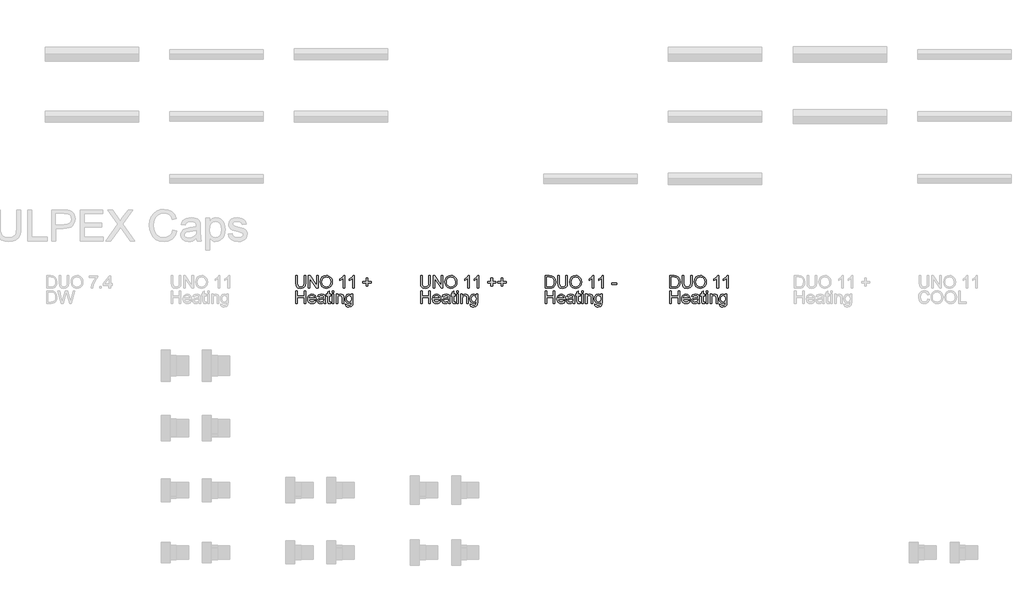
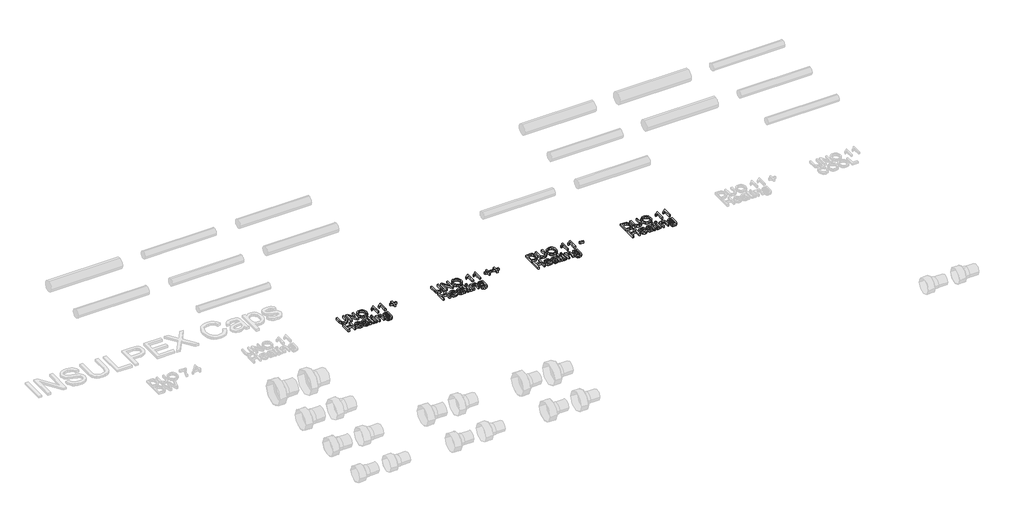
# One storey, part 24 of 44: 4 proxies.
"""IFC4 building model written with IfcOpenShell, lengths in millimetres."""

from ifc_helpers import new_model, si_unit, origin, origin_with_axes, place, context, project, spatial, polyline, outline, extrude, element, save

model = new_model("IFC4")

# Units and contexts
model_context = context("Model", 3, world=origin())
ifc_project = project(units=[si_unit("LENGTHUNIT", "METRE", prefix="MILLI")], contexts=[model_context])

# Site, building, storey
site = spatial("IfcSite", under=ifc_project)
building = spatial("IfcBuilding", under=site)
storey = spatial("IfcBuildingStorey", under=building, Name="REHAU Starting view", Elevation=0.0)

# Proxies
placement = place(None, origin())
element("IfcBuildingElementProxy", 1, Name="100", ObjectType="100", at=placement, inside=storey, context=model_context, shape_type="SweptSolid", body=[
    extrude(outline(polyline([(19076.9118625, 13222.431128), (19089.4689012, 13222.431128), (19089.4689012, 13164.477451), (19086.0598614, 13140.4547567), (19073.7726028, 13125.9847316), (19063.5086951, 13121.8000739), (19050.4734097, 13120.405188), (19027.529836, 13125.2612303), (19019.8901532, 13131.2055902), (19014.8011189, 13139.3265853), (19010.9874089, 13164.477451), (19010.9874089, 13222.431128), (19023.5444477, 13222.431128), (19023.5444477, 13164.9189094), (19026.0215198, 13145.7767829), (19034.5318566, 13136.2976902), (19049.2961874, 13132.9622268), (19062.067824, 13134.6115644), (19070.5597667, 13139.5595772), (19075.3238385, 13149.1980855), (19076.9118625, 13164.9189094), (19076.9118625, 13222.431128)])), origin_with_axes(), (0.0, 0.0, 1.0), 20.0),
    extrude(outline(polyline([(19111.4437191, 13121.9748178), (19111.4437191, 13222.431128), (19124.8836746, 13222.431128), (19177.3681726, 13142.8459897), (19177.3681726, 13222.431128), (19189.9252114, 13222.431128), (19189.9252114, 13121.9748178), (19176.4852558, 13121.9748178), (19124.0007578, 13201.5844816), (19124.0007578, 13121.9748178), (19111.4437191, 13121.9748178)])), origin_with_axes(), (0.0, 0.0, 1.0), 20.0),
    extrude(outline(polyline([(19207.1911397, 13170.8785977), (19210.5388658, 13193.0925389), (19220.5820443, 13209.8986147), (19235.9165921, 13220.4752221), (19255.1384264, 13224.0007578), (19268.3147332, 13222.3452889), (19280.1298766, 13217.3788819), (19289.9400631, 13209.4510249), (19297.1014993, 13198.9112058), (19301.479295, 13186.2683279), (19302.9385603, 13172.0312947), (19301.402653, 13157.6041891), (19296.794931, 13144.7835015), (19289.369846, 13134.2252883), (19279.3818499, 13126.5856055), (19267.667874, 13121.9502924), (19255.06485, 13120.405188), (19241.6862081, 13122.1127736), (19229.8036197, 13127.2355304), (19220.0179586, 13135.3105402), (19212.9300988, 13145.8748848), (19207.1911397, 13170.8785977)]), holes=[polyline([(19219.7481785, 13170.7559704), (19222.2589731, 13155.0412778), (19229.7913569, 13143.0667189), (19241.1129253, 13135.4883498), (19254.9912736, 13132.9622268), (19269.071957, 13135.5128753), (19280.4119195, 13143.1648208), (19287.889121, 13155.5072617), (19290.3815215, 13172.1293965), (19286.1140904, 13192.8534156), (19273.6428907, 13206.575414), (19255.2120028, 13211.4437191), (19241.7046022, 13209.0984714), (19230.2205526, 13202.0627282), (19222.366272, 13189.5455433), (19219.7481785, 13170.7559704)])]), origin_with_axes(), (0.0, 0.0, 1.0), 20.0),
    extrude(outline(polyline([(19401.8252406, 13121.9748178), (19389.2682018, 13121.9748178), (19389.2682018, 13200.2601064), (19377.3733507, 13191.7865578), (19364.1541243, 13185.4467247), (19364.1541243, 13197.3170505), (19382.5604868, 13209.0647488), (19393.7318367, 13222.431128), (19401.8252406, 13222.431128), (19401.8252406, 13121.9748178)])), origin_with_axes(), (0.0, 0.0, 1.0), 20.0),
    extrude(outline(polyline([(19478.7371031, 13121.9748178), (19466.1800643, 13121.9748178), (19466.1800643, 13200.2601064), (19454.2852131, 13191.7865578), (19441.0659868, 13185.4467247), (19441.0659868, 13197.3170505), (19459.4723492, 13209.0647488), (19470.6436992, 13222.431128), (19478.7371031, 13222.431128), (19478.7371031, 13121.9748178)])), origin_with_axes(), (0.0, 0.0, 1.0), 20.0),
    extrude(outline(polyline([(19576.0541535, 13137.6711163), (19576.0541535, 13164.3548237), (19549.3704461, 13164.3548237), (19549.3704461, 13176.9118625), (19576.0541535, 13176.9118625), (19576.0541535, 13203.5955698), (19588.6111923, 13203.5955698), (19588.6111923, 13176.9118625), (19615.2948997, 13176.9118625), (19615.2948997, 13164.3548237), (19588.6111923, 13164.3548237), (19588.6111923, 13137.6711163), (19576.0541535, 13137.6711163)])), origin_with_axes(), (0.0, 0.0, 1.0), 20.0),
    extrude(outline(polyline([(19010.9874089, 13000.0), (19010.9874089, 13100.4563101), (19023.5444477, 13100.4563101), (19023.5444477, 13059.6459342), (19076.9118625, 13059.6459342), (19076.9118625, 13100.4563101), (19089.4689012, 13100.4563101), (19089.4689012, 13000.0), (19076.9118625, 13000.0), (19076.9118625, 13047.0888954), (19023.5444477, 13047.0888954), (19023.5444477, 13000.0), (19010.9874089, 13000.0)])), origin_with_axes(), (0.0, 0.0, 1.0), 20.0),
    extrude(outline(polyline([(19161.5247213, 13021.9748178), (19173.8365055, 13020.405188), (19169.4004617, 13011.1284304), (19162.321799, 13004.1938547), (19152.7599328, 12999.8712413), (19140.8742787, 12998.4303702), (19126.1406048, 13000.9166393), (19114.803708, 13008.3754468), (19107.5748268, 13020.3224146), (19105.1651997, 13036.2731647), (19107.5993522, 13052.7604095), (19114.9018098, 13065.0905877), (19126.0854225, 13072.7793214), (19140.1630402, 13075.3422326), (19153.8022651, 13072.7854527), (19164.7007692, 13065.1151131), (19171.846877, 13052.8094604), (19174.2289129, 13036.3467411), (19174.1553365, 13032.9622268), (19117.7222385, 13032.9622268), (19119.8958079, 13023.5628418), (19124.9449883, 13016.6527916), (19132.2321175, 13012.4037546), (19141.1195333, 13010.9874089), (19153.4313175, 13013.6116338), (19161.5247213, 13021.9748178)]), holes=[polyline([(19117.7222385, 13045.5192655), (19161.6718741, 13045.5192655), (19156.6441535, 13056.8990819), (19149.3233018, 13061.3136659), (19140.1139892, 13062.7851938), (19124.6506827, 13058.088567), (19119.7854433, 13052.5979283), (19117.7222385, 13045.5192655)])]), origin_with_axes(), (0.0, 0.0, 1.0), 20.0),
    extrude(outline(polyline([(19233.8748471, 13009.4177791), (19221.697953, 13000.9074423), (19208.2457347, 12998.4303702), (19197.7519008, 12999.9202922), (19190.0110505, 13004.3900585), (19185.2377816, 13011.1774813), (19183.646692, 13019.6203731), (19186.0501877, 13029.5531869), (19192.3654953, 13036.7636741), (19201.157875, 13040.8839524), (19212.0226566, 13042.7724133), (19233.8012707, 13047.0888954), (19233.8748471, 13049.8847985), (19230.4167563, 13059.1554248), (19216.5353424, 13062.7851938), (19203.8311508, 13060.3694354), (19197.7733606, 13051.7977849), (19185.2163218, 13053.3674148), (19190.6487126, 13065.6301479), (19201.5870706, 13072.8161096), (19218.1540231, 13075.3422326), (19233.372075, 13073.1104152), (19241.968251, 13067.5063461), (19245.8187492, 13058.9837466), (19246.4318858, 13047.9963376), (19246.4318858, 13032.3736156), (19247.069548, 13010.5582133), (19249.5711455, 13000.0), (19237.0141068, 13000.0), (19233.8748471, 13009.4177791)]), holes=[polyline([(19233.8748471, 13034.5318566), (19213.6168119, 13030.6813584), (19202.8133439, 13028.6457447), (19197.9205134, 13025.3348067), (19196.2037308, 13020.5032899), (19199.9438644, 13013.7097357), (19210.9190106, 13010.9874089), (19223.6232021, 13013.9917785), (19231.8147079, 13021.2635793), (19233.8012707, 13030.975664), (19233.8748471, 13034.5318566)])]), origin_with_axes(), (0.0, 0.0, 1.0), 20.0),
    extrude(outline(polyline([(19290.3815215, 13010.4723741), (19291.9511514, 12999.632118), (19282.5578978, 12998.4303702), (19272.0364727, 13000.5150348), (19266.7880229, 13005.9842138), (19265.267444, 13020.2335097), (19265.267444, 13061.215564), (19255.8496649, 13061.215564), (19255.8496649, 13073.7726028), (19265.267444, 13073.7726028), (19265.267444, 13091.7007187), (19277.8244828, 13099.082884), (19277.8244828, 13073.7726028), (19290.3815215, 13073.7726028), (19290.3815215, 13061.215564), (19277.8244828, 13061.215564), (19277.8244828, 13020.6013917), (19278.4866703, 13014.1266686), (19280.6326487, 13011.8335375), (19284.9123425, 13010.9874089), (19290.3815215, 13010.4723741)])), origin_with_axes(), (0.0, 0.0, 1.0), 20.0),
    extrude(outline(polyline([(19302.9385603, 13087.8992714), (19302.9385603, 13100.4563101), (19315.4955991, 13100.4563101), (19315.4955991, 13087.8992714), (19302.9385603, 13087.8992714)])), origin_with_axes(), (0.0, 0.0, 1.0), 20.0),
    extrude(outline(polyline([(19302.9385603, 13000.0), (19302.9385603, 13073.7726028), (19315.4955991, 13073.7726028), (19315.4955991, 13000.0), (19302.9385603, 13000.0)])), origin_with_axes(), (0.0, 0.0, 1.0), 20.0),
    extrude(outline(polyline([(19334.3311572, 13000.0), (19334.3311572, 13073.7726028), (19346.888196, 13073.7726028), (19346.888196, 13063.4719069), (19356.4899161, 13072.3746512), (19369.5987778, 13075.3422326), (19381.4568408, 13072.9509996), (19389.5502447, 13066.6724803), (19393.3149038, 13057.4386422), (19393.9770914, 13045.2985363), (19393.9770914, 13000.0), (19381.4200526, 13000.0), (19381.4200526, 13043.6062792), (19379.9730501, 13054.7163154), (19374.8594904, 13060.5901646), (19366.2387889, 13062.7851938), (19352.6148924, 13057.8555751), (19348.3198701, 13050.712533), (19346.888196, 13039.1426443), (19346.888196, 13000.0), (19334.3311572, 13000.0)])), origin_with_axes(), (0.0, 0.0, 1.0), 20.0),
    extrude(outline(polyline([(19408.10376, 12993.7214806), (19420.6607988, 12992.1518508), (19424.7320262, 12985.5299749), (19436.9211829, 12982.7340717), (19449.7725273, 12985.8978569), (19455.9038939, 12994.7760757), (19456.7622852, 13009.4177791), (19447.9208546, 13002.3544448), (19437.1419121, 13000.0), (19424.1955316, 13002.7407209), (19414.5416949, 13010.9628835), (19408.5360213, 13023.0171502), (19406.5341301, 13037.2541834), (19410.127111, 13056.7151409), (19420.5259087, 13070.4861903), (19436.5287755, 13075.3422326), (19447.7307822, 13072.5953804), (19456.7622852, 13064.3548237), (19456.7622852, 13073.7726028), (19469.319324, 13073.7726028), (19469.319324, 13010.0799667), (19465.8857587, 12985.6893904), (19455.0087144, 12974.3463622), (19436.6759283, 12970.1770329), (19424.9926092, 12971.6454952), (19415.7924937, 12976.0508821), (19409.8910533, 12983.4054563), (19408.10376, 12993.7214806)]), holes=[polyline([(19419.0911689, 13038.1125747), (19420.4308725, 13026.5948026), (19424.4499833, 13018.6761426), (19430.4924451, 13014.0868147), (19437.9022016, 13012.5570388), (19445.2567758, 13014.0776177), (19451.3298944, 13018.6393544), (19455.4041875, 13026.4568468), (19456.7622852, 13037.7446927), (19455.3643336, 13048.6309341), (19451.1704789, 13056.4698863), (19445.0084555, 13061.2063669), (19437.7059979, 13062.7851938), (19430.5353646, 13061.2308924), (19424.5235597, 13056.5679881), (19420.4492666, 13048.8455319), (19419.0911689, 13038.1125747)])]), origin_with_axes(), (0.0, 0.0, 1.0), 20.0),
])
element("IfcBuildingElementProxy", 2, Name="100", ObjectType="100", at=placement, inside=storey, context=model_context, shape_type="SweptSolid", body=[
    extrude(outline(polyline([(20076.9118625, 13222.431128), (20089.4689012, 13222.431128), (20089.4689012, 13164.477451), (20086.0598614, 13140.4547567), (20073.7726028, 13125.9847316), (20063.5086951, 13121.8000739), (20050.4734097, 13120.405188), (20027.529836, 13125.2612303), (20019.8901532, 13131.2055902), (20014.8011189, 13139.3265853), (20010.9874089, 13164.477451), (20010.9874089, 13222.431128), (20023.5444477, 13222.431128), (20023.5444477, 13164.9189094), (20026.0215198, 13145.7767829), (20034.5318566, 13136.2976902), (20049.2961874, 13132.9622268), (20062.067824, 13134.6115644), (20070.5597667, 13139.5595772), (20075.3238385, 13149.1980855), (20076.9118625, 13164.9189094), (20076.9118625, 13222.431128)])), origin_with_axes(), (0.0, 0.0, 1.0), 20.0),
    extrude(outline(polyline([(20111.4437191, 13121.9748178), (20111.4437191, 13222.431128), (20124.8836746, 13222.431128), (20177.3681726, 13142.8459897), (20177.3681726, 13222.431128), (20189.9252114, 13222.431128), (20189.9252114, 13121.9748178), (20176.4852558, 13121.9748178), (20124.0007578, 13201.5844816), (20124.0007578, 13121.9748178), (20111.4437191, 13121.9748178)])), origin_with_axes(), (0.0, 0.0, 1.0), 20.0),
    extrude(outline(polyline([(20207.1911397, 13170.8785977), (20210.5388658, 13193.0925389), (20220.5820443, 13209.8986147), (20235.9165921, 13220.4752221), (20255.1384264, 13224.0007578), (20268.3147332, 13222.3452889), (20280.1298766, 13217.3788819), (20289.9400631, 13209.4510249), (20297.1014993, 13198.9112058), (20301.479295, 13186.2683279), (20302.9385603, 13172.0312947), (20301.402653, 13157.6041891), (20296.794931, 13144.7835015), (20289.369846, 13134.2252883), (20279.3818499, 13126.5856055), (20267.667874, 13121.9502924), (20255.06485, 13120.405188), (20241.6862081, 13122.1127736), (20229.8036197, 13127.2355304), (20220.0179586, 13135.3105402), (20212.9300988, 13145.8748848), (20207.1911397, 13170.8785977)]), holes=[polyline([(20219.7481785, 13170.7559704), (20222.2589731, 13155.0412778), (20229.7913569, 13143.0667189), (20241.1129253, 13135.4883498), (20254.9912736, 13132.9622268), (20269.071957, 13135.5128753), (20280.4119195, 13143.1648208), (20287.889121, 13155.5072617), (20290.3815215, 13172.1293965), (20286.1140904, 13192.8534156), (20273.6428907, 13206.575414), (20255.2120028, 13211.4437191), (20241.7046022, 13209.0984714), (20230.2205526, 13202.0627282), (20222.366272, 13189.5455433), (20219.7481785, 13170.7559704)])]), origin_with_axes(), (0.0, 0.0, 1.0), 20.0),
    extrude(outline(polyline([(20401.8252406, 13121.9748178), (20389.2682018, 13121.9748178), (20389.2682018, 13200.2601064), (20377.3733507, 13191.7865578), (20364.1541243, 13185.4467247), (20364.1541243, 13197.3170505), (20382.5604868, 13209.0647488), (20393.7318367, 13222.431128), (20401.8252406, 13222.431128), (20401.8252406, 13121.9748178)])), origin_with_axes(), (0.0, 0.0, 1.0), 20.0),
    extrude(outline(polyline([(20478.7371031, 13121.9748178), (20466.1800643, 13121.9748178), (20466.1800643, 13200.2601064), (20454.2852131, 13191.7865578), (20441.0659868, 13185.4467247), (20441.0659868, 13197.3170505), (20459.4723492, 13209.0647488), (20470.6436992, 13222.431128), (20478.7371031, 13222.431128), (20478.7371031, 13121.9748178)])), origin_with_axes(), (0.0, 0.0, 1.0), 20.0),
    extrude(outline(polyline([(20576.0541535, 13137.6711163), (20576.0541535, 13164.3548237), (20549.3704461, 13164.3548237), (20549.3704461, 13176.9118625), (20576.0541535, 13176.9118625), (20576.0541535, 13203.5955698), (20588.6111923, 13203.5955698), (20588.6111923, 13176.9118625), (20615.2948997, 13176.9118625), (20615.2948997, 13164.3548237), (20588.6111923, 13164.3548237), (20588.6111923, 13137.6711163), (20576.0541535, 13137.6711163)])), origin_with_axes(), (0.0, 0.0, 1.0), 20.0),
    extrude(outline(polyline([(20657.6749055, 13137.6711163), (20657.6749055, 13164.3548237), (20630.9911981, 13164.3548237), (20630.9911981, 13176.9118625), (20657.6749055, 13176.9118625), (20657.6749055, 13203.5955698), (20670.2319443, 13203.5955698), (20670.2319443, 13176.9118625), (20696.9156517, 13176.9118625), (20696.9156517, 13164.3548237), (20670.2319443, 13164.3548237), (20670.2319443, 13137.6711163), (20657.6749055, 13137.6711163)])), origin_with_axes(), (0.0, 0.0, 1.0), 20.0),
    extrude(outline(polyline([(20010.9874089, 13000.0), (20010.9874089, 13100.4563101), (20023.5444477, 13100.4563101), (20023.5444477, 13059.6459342), (20076.9118625, 13059.6459342), (20076.9118625, 13100.4563101), (20089.4689012, 13100.4563101), (20089.4689012, 13000.0), (20076.9118625, 13000.0), (20076.9118625, 13047.0888954), (20023.5444477, 13047.0888954), (20023.5444477, 13000.0), (20010.9874089, 13000.0)])), origin_with_axes(), (0.0, 0.0, 1.0), 20.0),
    extrude(outline(polyline([(20161.5247213, 13021.9748178), (20173.8365055, 13020.405188), (20169.4004617, 13011.1284304), (20162.321799, 13004.1938547), (20152.7599328, 12999.8712413), (20140.8742787, 12998.4303702), (20126.1406048, 13000.9166393), (20114.803708, 13008.3754468), (20107.5748268, 13020.3224146), (20105.1651997, 13036.2731647), (20107.5993522, 13052.7604095), (20114.9018098, 13065.0905877), (20126.0854225, 13072.7793214), (20140.1630402, 13075.3422326), (20153.8022651, 13072.7854527), (20164.7007692, 13065.1151131), (20171.846877, 13052.8094604), (20174.2289129, 13036.3467411), (20174.1553365, 13032.9622268), (20117.7222385, 13032.9622268), (20119.8958079, 13023.5628418), (20124.9449883, 13016.6527916), (20132.2321175, 13012.4037546), (20141.1195333, 13010.9874089), (20153.4313175, 13013.6116338), (20161.5247213, 13021.9748178)]), holes=[polyline([(20117.7222385, 13045.5192655), (20161.6718741, 13045.5192655), (20156.6441535, 13056.8990819), (20149.3233018, 13061.3136659), (20140.1139892, 13062.7851938), (20124.6506827, 13058.088567), (20119.7854433, 13052.5979283), (20117.7222385, 13045.5192655)])]), origin_with_axes(), (0.0, 0.0, 1.0), 20.0),
    extrude(outline(polyline([(20233.8748471, 13009.4177791), (20221.697953, 13000.9074423), (20208.2457347, 12998.4303702), (20197.7519008, 12999.9202922), (20190.0110505, 13004.3900585), (20185.2377816, 13011.1774813), (20183.646692, 13019.6203731), (20186.0501877, 13029.5531869), (20192.3654953, 13036.7636741), (20201.157875, 13040.8839524), (20212.0226566, 13042.7724133), (20233.8012707, 13047.0888954), (20233.8748471, 13049.8847985), (20230.4167563, 13059.1554248), (20216.5353424, 13062.7851938), (20203.8311508, 13060.3694354), (20197.7733606, 13051.7977849), (20185.2163218, 13053.3674148), (20190.6487126, 13065.6301479), (20201.5870706, 13072.8161096), (20218.1540231, 13075.3422326), (20233.372075, 13073.1104152), (20241.968251, 13067.5063461), (20245.8187492, 13058.9837466), (20246.4318858, 13047.9963376), (20246.4318858, 13032.3736156), (20247.069548, 13010.5582133), (20249.5711455, 13000.0), (20237.0141068, 13000.0), (20233.8748471, 13009.4177791)]), holes=[polyline([(20233.8748471, 13034.5318566), (20213.6168119, 13030.6813584), (20202.8133439, 13028.6457447), (20197.9205134, 13025.3348067), (20196.2037308, 13020.5032899), (20199.9438644, 13013.7097357), (20210.9190106, 13010.9874089), (20223.6232021, 13013.9917785), (20231.8147079, 13021.2635793), (20233.8012707, 13030.975664), (20233.8748471, 13034.5318566)])]), origin_with_axes(), (0.0, 0.0, 1.0), 20.0),
    extrude(outline(polyline([(20290.3815215, 13010.4723741), (20291.9511514, 12999.632118), (20282.5578978, 12998.4303702), (20272.0364727, 13000.5150348), (20266.7880229, 13005.9842138), (20265.267444, 13020.2335097), (20265.267444, 13061.215564), (20255.8496649, 13061.215564), (20255.8496649, 13073.7726028), (20265.267444, 13073.7726028), (20265.267444, 13091.7007187), (20277.8244828, 13099.082884), (20277.8244828, 13073.7726028), (20290.3815215, 13073.7726028), (20290.3815215, 13061.215564), (20277.8244828, 13061.215564), (20277.8244828, 13020.6013917), (20278.4866703, 13014.1266686), (20280.6326487, 13011.8335375), (20284.9123425, 13010.9874089), (20290.3815215, 13010.4723741)])), origin_with_axes(), (0.0, 0.0, 1.0), 20.0),
    extrude(outline(polyline([(20302.9385603, 13087.8992714), (20302.9385603, 13100.4563101), (20315.4955991, 13100.4563101), (20315.4955991, 13087.8992714), (20302.9385603, 13087.8992714)])), origin_with_axes(), (0.0, 0.0, 1.0), 20.0),
    extrude(outline(polyline([(20302.9385603, 13000.0), (20302.9385603, 13073.7726028), (20315.4955991, 13073.7726028), (20315.4955991, 13000.0), (20302.9385603, 13000.0)])), origin_with_axes(), (0.0, 0.0, 1.0), 20.0),
    extrude(outline(polyline([(20334.3311572, 13000.0), (20334.3311572, 13073.7726028), (20346.888196, 13073.7726028), (20346.888196, 13063.4719069), (20356.4899161, 13072.3746512), (20369.5987778, 13075.3422326), (20381.4568408, 13072.9509996), (20389.5502447, 13066.6724803), (20393.3149038, 13057.4386422), (20393.9770914, 13045.2985363), (20393.9770914, 13000.0), (20381.4200526, 13000.0), (20381.4200526, 13043.6062792), (20379.9730501, 13054.7163154), (20374.8594904, 13060.5901646), (20366.2387889, 13062.7851938), (20352.6148924, 13057.8555751), (20348.3198701, 13050.712533), (20346.888196, 13039.1426443), (20346.888196, 13000.0), (20334.3311572, 13000.0)])), origin_with_axes(), (0.0, 0.0, 1.0), 20.0),
    extrude(outline(polyline([(20408.10376, 12993.7214806), (20420.6607988, 12992.1518508), (20424.7320262, 12985.5299749), (20436.9211829, 12982.7340717), (20449.7725273, 12985.8978569), (20455.9038939, 12994.7760757), (20456.7622852, 13009.4177791), (20447.9208546, 13002.3544448), (20437.1419121, 13000.0), (20424.1955316, 13002.7407209), (20414.5416949, 13010.9628835), (20408.5360213, 13023.0171502), (20406.5341301, 13037.2541834), (20410.127111, 13056.7151409), (20420.5259087, 13070.4861903), (20436.5287755, 13075.3422326), (20447.7307822, 13072.5953804), (20456.7622852, 13064.3548237), (20456.7622852, 13073.7726028), (20469.319324, 13073.7726028), (20469.319324, 13010.0799667), (20465.8857587, 12985.6893904), (20455.0087144, 12974.3463622), (20436.6759283, 12970.1770329), (20424.9926092, 12971.6454952), (20415.7924937, 12976.0508821), (20409.8910533, 12983.4054563), (20408.10376, 12993.7214806)]), holes=[polyline([(20419.0911689, 13038.1125747), (20420.4308725, 13026.5948026), (20424.4499833, 13018.6761426), (20430.4924451, 13014.0868147), (20437.9022016, 13012.5570388), (20445.2567758, 13014.0776177), (20451.3298944, 13018.6393544), (20455.4041875, 13026.4568468), (20456.7622852, 13037.7446927), (20455.3643336, 13048.6309341), (20451.1704789, 13056.4698863), (20445.0084555, 13061.2063669), (20437.7059979, 13062.7851938), (20430.5353646, 13061.2308924), (20424.5235597, 13056.5679881), (20420.4492666, 13048.8455319), (20419.0911689, 13038.1125747)])]), origin_with_axes(), (0.0, 0.0, 1.0), 20.0),
])
element("IfcBuildingElementProxy", 3, Name="100", ObjectType="100", at=placement, inside=storey, context=model_context, shape_type="SweptSolid", body=[
    extrude(outline(polyline([(22010.9874089, 13121.9748178), (22010.9874089, 13222.431128), (22045.6418929, 13222.431128), (22063.5700088, 13220.9841255), (22078.3343395, 13213.7981638), (22090.2291907, 13196.6303374), (22094.1777908, 13172.7425332), (22091.5045149, 13152.4722352), (22084.6373844, 13137.8427946), (22075.4648599, 13128.7315838), (22063.4596442, 13123.6916005), (22047.3096246, 13121.9748178), (22010.9874089, 13121.9748178)]), holes=[polyline([(22023.5444477, 13134.5318566), (22045.7645202, 13134.5318566), (22061.9268025, 13136.3467411), (22071.2464797, 13141.4725636), (22078.8861625, 13153.9437632), (22081.620752, 13172.9387369), (22080.2810484, 13186.6239471), (22076.2619376, 13196.7284393), (22063.2266522, 13207.863001), (22045.4211637, 13209.8740892), (22023.5444477, 13209.8740892), (22023.5444477, 13134.5318566)])]), origin_with_axes(), (0.0, 0.0, 1.0), 20.0),
    extrude(outline(polyline([(22177.3681726, 13222.431128), (22189.9252114, 13222.431128), (22189.9252114, 13164.477451), (22186.5161716, 13140.4547567), (22174.2289129, 13125.9847316), (22163.9650053, 13121.8000739), (22150.9297199, 13120.405188), (22127.9861461, 13125.2612303), (22120.3464634, 13131.2055902), (22115.2574291, 13139.3265853), (22111.4437191, 13164.477451), (22111.4437191, 13222.431128), (22124.0007578, 13222.431128), (22124.0007578, 13164.9189094), (22126.4778299, 13145.7767829), (22134.9881668, 13136.2976902), (22149.7524975, 13132.9622268), (22162.5241341, 13134.6115644), (22171.0160768, 13139.5595772), (22175.7801487, 13149.1980855), (22177.3681726, 13164.9189094), (22177.3681726, 13222.431128)])), origin_with_axes(), (0.0, 0.0, 1.0), 20.0),
    extrude(outline(polyline([(22207.1911397, 13170.8785977), (22210.5388658, 13193.0925389), (22220.5820443, 13209.8986147), (22235.9165921, 13220.4752221), (22255.1384264, 13224.0007578), (22268.3147332, 13222.3452889), (22280.1298766, 13217.3788819), (22289.9400631, 13209.4510249), (22297.1014993, 13198.9112058), (22301.479295, 13186.2683279), (22302.9385603, 13172.0312947), (22301.402653, 13157.6041891), (22296.794931, 13144.7835015), (22289.369846, 13134.2252883), (22279.3818499, 13126.5856055), (22267.667874, 13121.9502924), (22255.06485, 13120.405188), (22241.6862081, 13122.1127736), (22229.8036197, 13127.2355304), (22220.0179586, 13135.3105402), (22212.9300988, 13145.8748848), (22207.1911397, 13170.8785977)]), holes=[polyline([(22219.7481785, 13170.7559704), (22222.2589731, 13155.0412778), (22229.7913569, 13143.0667189), (22241.1129253, 13135.4883498), (22254.9912736, 13132.9622268), (22269.071957, 13135.5128753), (22280.4119195, 13143.1648208), (22287.889121, 13155.5072617), (22290.3815215, 13172.1293965), (22286.1140904, 13192.8534156), (22273.6428907, 13206.575414), (22255.2120028, 13211.4437191), (22241.7046022, 13209.0984714), (22230.2205526, 13202.0627282), (22222.366272, 13189.5455433), (22219.7481785, 13170.7559704)])]), origin_with_axes(), (0.0, 0.0, 1.0), 20.0),
    extrude(outline(polyline([(22401.8252406, 13121.9748178), (22389.2682018, 13121.9748178), (22389.2682018, 13200.2601064), (22377.3733507, 13191.7865578), (22364.1541243, 13185.4467247), (22364.1541243, 13197.3170505), (22382.5604868, 13209.0647488), (22393.7318367, 13222.431128), (22401.8252406, 13222.431128), (22401.8252406, 13121.9748178)])), origin_with_axes(), (0.0, 0.0, 1.0), 20.0),
    extrude(outline(polyline([(22478.7371031, 13121.9748178), (22466.1800643, 13121.9748178), (22466.1800643, 13200.2601064), (22454.2852131, 13191.7865578), (22441.0659868, 13185.4467247), (22441.0659868, 13197.3170505), (22459.4723492, 13209.0647488), (22470.6436992, 13222.431128), (22478.7371031, 13222.431128), (22478.7371031, 13121.9748178)])), origin_with_axes(), (0.0, 0.0, 1.0), 20.0),
    extrude(outline(polyline([(22010.9874089, 13000.0), (22010.9874089, 13100.4563101), (22023.5444477, 13100.4563101), (22023.5444477, 13059.6459342), (22076.9118625, 13059.6459342), (22076.9118625, 13100.4563101), (22089.4689012, 13100.4563101), (22089.4689012, 13000.0), (22076.9118625, 13000.0), (22076.9118625, 13047.0888954), (22023.5444477, 13047.0888954), (22023.5444477, 13000.0), (22010.9874089, 13000.0)])), origin_with_axes(), (0.0, 0.0, 1.0), 20.0),
    extrude(outline(polyline([(22161.5247213, 13021.9748178), (22173.8365055, 13020.405188), (22169.4004617, 13011.1284304), (22162.321799, 13004.1938547), (22152.7599328, 12999.8712413), (22140.8742787, 12998.4303702), (22126.1406048, 13000.9166393), (22114.803708, 13008.3754468), (22107.5748268, 13020.3224146), (22105.1651997, 13036.2731647), (22107.5993522, 13052.7604095), (22114.9018098, 13065.0905877), (22126.0854225, 13072.7793214), (22140.1630402, 13075.3422326), (22153.8022651, 13072.7854527), (22164.7007692, 13065.1151131), (22171.846877, 13052.8094604), (22174.2289129, 13036.3467411), (22174.1553365, 13032.9622268), (22117.7222385, 13032.9622268), (22119.8958079, 13023.5628418), (22124.9449883, 13016.6527916), (22132.2321175, 13012.4037546), (22141.1195333, 13010.9874089), (22153.4313175, 13013.6116338), (22161.5247213, 13021.9748178)]), holes=[polyline([(22117.7222385, 13045.5192655), (22161.6718741, 13045.5192655), (22156.6441535, 13056.8990819), (22149.3233018, 13061.3136659), (22140.1139892, 13062.7851938), (22124.6506827, 13058.088567), (22119.7854433, 13052.5979283), (22117.7222385, 13045.5192655)])]), origin_with_axes(), (0.0, 0.0, 1.0), 20.0),
    extrude(outline(polyline([(22233.8748471, 13009.4177791), (22221.697953, 13000.9074423), (22208.2457347, 12998.4303702), (22197.7519008, 12999.9202922), (22190.0110505, 13004.3900585), (22185.2377816, 13011.1774813), (22183.646692, 13019.6203731), (22186.0501877, 13029.5531869), (22192.3654953, 13036.7636741), (22201.157875, 13040.8839524), (22212.0226566, 13042.7724133), (22233.8012707, 13047.0888954), (22233.8748471, 13049.8847985), (22230.4167563, 13059.1554248), (22216.5353424, 13062.7851938), (22203.8311508, 13060.3694354), (22197.7733606, 13051.7977849), (22185.2163218, 13053.3674148), (22190.6487126, 13065.6301479), (22201.5870706, 13072.8161096), (22218.1540231, 13075.3422326), (22233.372075, 13073.1104152), (22241.968251, 13067.5063461), (22245.8187492, 13058.9837466), (22246.4318858, 13047.9963376), (22246.4318858, 13032.3736156), (22247.069548, 13010.5582133), (22249.5711455, 13000.0), (22237.0141068, 13000.0), (22233.8748471, 13009.4177791)]), holes=[polyline([(22233.8748471, 13034.5318566), (22213.6168119, 13030.6813584), (22202.8133439, 13028.6457447), (22197.9205134, 13025.3348067), (22196.2037308, 13020.5032899), (22199.9438644, 13013.7097357), (22210.9190106, 13010.9874089), (22223.6232021, 13013.9917785), (22231.8147079, 13021.2635793), (22233.8012707, 13030.975664), (22233.8748471, 13034.5318566)])]), origin_with_axes(), (0.0, 0.0, 1.0), 20.0),
    extrude(outline(polyline([(22290.3815215, 13010.4723741), (22291.9511514, 12999.632118), (22282.5578978, 12998.4303702), (22272.0364727, 13000.5150348), (22266.7880229, 13005.9842138), (22265.267444, 13020.2335097), (22265.267444, 13061.215564), (22255.8496649, 13061.215564), (22255.8496649, 13073.7726028), (22265.267444, 13073.7726028), (22265.267444, 13091.7007187), (22277.8244828, 13099.082884), (22277.8244828, 13073.7726028), (22290.3815215, 13073.7726028), (22290.3815215, 13061.215564), (22277.8244828, 13061.215564), (22277.8244828, 13020.6013917), (22278.4866703, 13014.1266686), (22280.6326487, 13011.8335375), (22284.9123425, 13010.9874089), (22290.3815215, 13010.4723741)])), origin_with_axes(), (0.0, 0.0, 1.0), 20.0),
    extrude(outline(polyline([(22302.9385603, 13087.8992714), (22302.9385603, 13100.4563101), (22315.4955991, 13100.4563101), (22315.4955991, 13087.8992714), (22302.9385603, 13087.8992714)])), origin_with_axes(), (0.0, 0.0, 1.0), 20.0),
    extrude(outline(polyline([(22302.9385603, 13000.0), (22302.9385603, 13073.7726028), (22315.4955991, 13073.7726028), (22315.4955991, 13000.0), (22302.9385603, 13000.0)])), origin_with_axes(), (0.0, 0.0, 1.0), 20.0),
    extrude(outline(polyline([(22334.3311572, 13000.0), (22334.3311572, 13073.7726028), (22346.888196, 13073.7726028), (22346.888196, 13063.4719069), (22356.4899161, 13072.3746512), (22369.5987778, 13075.3422326), (22381.4568408, 13072.9509996), (22389.5502447, 13066.6724803), (22393.3149038, 13057.4386422), (22393.9770914, 13045.2985363), (22393.9770914, 13000.0), (22381.4200526, 13000.0), (22381.4200526, 13043.6062792), (22379.9730501, 13054.7163154), (22374.8594904, 13060.5901646), (22366.2387889, 13062.7851938), (22352.6148924, 13057.8555751), (22348.3198701, 13050.712533), (22346.888196, 13039.1426443), (22346.888196, 13000.0), (22334.3311572, 13000.0)])), origin_with_axes(), (0.0, 0.0, 1.0), 20.0),
    extrude(outline(polyline([(22408.10376, 12993.7214806), (22420.6607988, 12992.1518508), (22424.7320262, 12985.5299749), (22436.9211829, 12982.7340717), (22449.7725273, 12985.8978569), (22455.9038939, 12994.7760757), (22456.7622852, 13009.4177791), (22447.9208546, 13002.3544448), (22437.1419121, 13000.0), (22424.1955316, 13002.7407209), (22414.5416949, 13010.9628835), (22408.5360213, 13023.0171502), (22406.5341301, 13037.2541834), (22410.127111, 13056.7151409), (22420.5259087, 13070.4861903), (22436.5287755, 13075.3422326), (22447.7307822, 13072.5953804), (22456.7622852, 13064.3548237), (22456.7622852, 13073.7726028), (22469.319324, 13073.7726028), (22469.319324, 13010.0799667), (22465.8857587, 12985.6893904), (22455.0087144, 12974.3463622), (22436.6759283, 12970.1770329), (22424.9926092, 12971.6454952), (22415.7924937, 12976.0508821), (22409.8910533, 12983.4054563), (22408.10376, 12993.7214806)]), holes=[polyline([(22419.0911689, 13038.1125747), (22420.4308725, 13026.5948026), (22424.4499833, 13018.6761426), (22430.4924451, 13014.0868147), (22437.9022016, 13012.5570388), (22445.2567758, 13014.0776177), (22451.3298944, 13018.6393544), (22455.4041875, 13026.4568468), (22456.7622852, 13037.7446927), (22455.3643336, 13048.6309341), (22451.1704789, 13056.4698863), (22445.0084555, 13061.2063669), (22437.7059979, 13062.7851938), (22430.5353646, 13061.2308924), (22424.5235597, 13056.5679881), (22420.4492666, 13048.8455319), (22419.0911689, 13038.1125747)])]), origin_with_axes(), (0.0, 0.0, 1.0), 20.0),
])
element("IfcBuildingElementProxy", 4, Name="100", ObjectType="100", at=placement, inside=storey, context=model_context, shape_type="SweptSolid", body=[
    extrude(outline(polyline([(21010.9874089, 13121.9748178), (21010.9874089, 13222.431128), (21045.6418929, 13222.431128), (21063.5700088, 13220.9841255), (21078.3343395, 13213.7981638), (21090.2291907, 13196.6303374), (21094.1777908, 13172.7425332), (21091.5045149, 13152.4722352), (21084.6373844, 13137.8427946), (21075.4648599, 13128.7315838), (21063.4596442, 13123.6916005), (21047.3096246, 13121.9748178), (21010.9874089, 13121.9748178)]), holes=[polyline([(21023.5444477, 13134.5318566), (21045.7645202, 13134.5318566), (21061.9268025, 13136.3467411), (21071.2464797, 13141.4725636), (21078.8861625, 13153.9437632), (21081.620752, 13172.9387369), (21080.2810484, 13186.6239471), (21076.2619376, 13196.7284393), (21063.2266522, 13207.863001), (21045.4211637, 13209.8740892), (21023.5444477, 13209.8740892), (21023.5444477, 13134.5318566)])]), origin_with_axes(), (0.0, 0.0, 1.0), 20.0),
    extrude(outline(polyline([(21177.3681726, 13222.431128), (21189.9252114, 13222.431128), (21189.9252114, 13164.477451), (21186.5161716, 13140.4547567), (21174.2289129, 13125.9847316), (21163.9650053, 13121.8000739), (21150.9297199, 13120.405188), (21127.9861461, 13125.2612303), (21120.3464634, 13131.2055902), (21115.2574291, 13139.3265853), (21111.4437191, 13164.477451), (21111.4437191, 13222.431128), (21124.0007578, 13222.431128), (21124.0007578, 13164.9189094), (21126.4778299, 13145.7767829), (21134.9881668, 13136.2976902), (21149.7524975, 13132.9622268), (21162.5241341, 13134.6115644), (21171.0160768, 13139.5595772), (21175.7801487, 13149.1980855), (21177.3681726, 13164.9189094), (21177.3681726, 13222.431128)])), origin_with_axes(), (0.0, 0.0, 1.0), 20.0),
    extrude(outline(polyline([(21207.1911397, 13170.8785977), (21210.5388658, 13193.0925389), (21220.5820443, 13209.8986147), (21235.9165921, 13220.4752221), (21255.1384264, 13224.0007578), (21268.3147332, 13222.3452889), (21280.1298766, 13217.3788819), (21289.9400631, 13209.4510249), (21297.1014993, 13198.9112058), (21301.479295, 13186.2683279), (21302.9385603, 13172.0312947), (21301.402653, 13157.6041891), (21296.794931, 13144.7835015), (21289.369846, 13134.2252883), (21279.3818499, 13126.5856055), (21267.667874, 13121.9502924), (21255.06485, 13120.405188), (21241.6862081, 13122.1127736), (21229.8036197, 13127.2355304), (21220.0179586, 13135.3105402), (21212.9300988, 13145.8748848), (21207.1911397, 13170.8785977)]), holes=[polyline([(21219.7481785, 13170.7559704), (21222.2589731, 13155.0412778), (21229.7913569, 13143.0667189), (21241.1129253, 13135.4883498), (21254.9912736, 13132.9622268), (21269.071957, 13135.5128753), (21280.4119195, 13143.1648208), (21287.889121, 13155.5072617), (21290.3815215, 13172.1293965), (21286.1140904, 13192.8534156), (21273.6428907, 13206.575414), (21255.2120028, 13211.4437191), (21241.7046022, 13209.0984714), (21230.2205526, 13202.0627282), (21222.366272, 13189.5455433), (21219.7481785, 13170.7559704)])]), origin_with_axes(), (0.0, 0.0, 1.0), 20.0),
    extrude(outline(polyline([(21401.8252406, 13121.9748178), (21389.2682018, 13121.9748178), (21389.2682018, 13200.2601064), (21377.3733507, 13191.7865578), (21364.1541243, 13185.4467247), (21364.1541243, 13197.3170505), (21382.5604868, 13209.0647488), (21393.7318367, 13222.431128), (21401.8252406, 13222.431128), (21401.8252406, 13121.9748178)])), origin_with_axes(), (0.0, 0.0, 1.0), 20.0),
    extrude(outline(polyline([(21478.7371031, 13121.9748178), (21466.1800643, 13121.9748178), (21466.1800643, 13200.2601064), (21454.2852131, 13191.7865578), (21441.0659868, 13185.4467247), (21441.0659868, 13197.3170505), (21459.4723492, 13209.0647488), (21470.6436992, 13222.431128), (21478.7371031, 13222.431128), (21478.7371031, 13121.9748178)])), origin_with_axes(), (0.0, 0.0, 1.0), 20.0),
    extrude(outline(polyline([(21544.6615566, 13151.7977849), (21544.6615566, 13164.3548237), (21583.9023027, 13164.3548237), (21583.9023027, 13151.7977849), (21544.6615566, 13151.7977849)])), origin_with_axes(), (0.0, 0.0, 1.0), 20.0),
    extrude(outline(polyline([(21010.9874089, 13000.0), (21010.9874089, 13100.4563101), (21023.5444477, 13100.4563101), (21023.5444477, 13059.6459342), (21076.9118625, 13059.6459342), (21076.9118625, 13100.4563101), (21089.4689012, 13100.4563101), (21089.4689012, 13000.0), (21076.9118625, 13000.0), (21076.9118625, 13047.0888954), (21023.5444477, 13047.0888954), (21023.5444477, 13000.0), (21010.9874089, 13000.0)])), origin_with_axes(), (0.0, 0.0, 1.0), 20.0),
    extrude(outline(polyline([(21161.5247213, 13021.9748178), (21173.8365055, 13020.405188), (21169.4004617, 13011.1284304), (21162.321799, 13004.1938547), (21152.7599328, 12999.8712413), (21140.8742787, 12998.4303702), (21126.1406048, 13000.9166393), (21114.803708, 13008.3754468), (21107.5748268, 13020.3224146), (21105.1651997, 13036.2731647), (21107.5993522, 13052.7604095), (21114.9018098, 13065.0905877), (21126.0854225, 13072.7793214), (21140.1630402, 13075.3422326), (21153.8022651, 13072.7854527), (21164.7007692, 13065.1151131), (21171.846877, 13052.8094604), (21174.2289129, 13036.3467411), (21174.1553365, 13032.9622268), (21117.7222385, 13032.9622268), (21119.8958079, 13023.5628418), (21124.9449883, 13016.6527916), (21132.2321175, 13012.4037546), (21141.1195333, 13010.9874089), (21153.4313175, 13013.6116338), (21161.5247213, 13021.9748178)]), holes=[polyline([(21117.7222385, 13045.5192655), (21161.6718741, 13045.5192655), (21156.6441535, 13056.8990819), (21149.3233018, 13061.3136659), (21140.1139892, 13062.7851938), (21124.6506827, 13058.088567), (21119.7854433, 13052.5979283), (21117.7222385, 13045.5192655)])]), origin_with_axes(), (0.0, 0.0, 1.0), 20.0),
    extrude(outline(polyline([(21233.8748471, 13009.4177791), (21221.697953, 13000.9074423), (21208.2457347, 12998.4303702), (21197.7519008, 12999.9202922), (21190.0110505, 13004.3900585), (21185.2377816, 13011.1774813), (21183.646692, 13019.6203731), (21186.0501877, 13029.5531869), (21192.3654953, 13036.7636741), (21201.157875, 13040.8839524), (21212.0226566, 13042.7724133), (21233.8012707, 13047.0888954), (21233.8748471, 13049.8847985), (21230.4167563, 13059.1554248), (21216.5353424, 13062.7851938), (21203.8311508, 13060.3694354), (21197.7733606, 13051.7977849), (21185.2163218, 13053.3674148), (21190.6487126, 13065.6301479), (21201.5870706, 13072.8161096), (21218.1540231, 13075.3422326), (21233.372075, 13073.1104152), (21241.968251, 13067.5063461), (21245.8187492, 13058.9837466), (21246.4318858, 13047.9963376), (21246.4318858, 13032.3736156), (21247.069548, 13010.5582133), (21249.5711455, 13000.0), (21237.0141068, 13000.0), (21233.8748471, 13009.4177791)]), holes=[polyline([(21233.8748471, 13034.5318566), (21213.6168119, 13030.6813584), (21202.8133439, 13028.6457447), (21197.9205134, 13025.3348067), (21196.2037308, 13020.5032899), (21199.9438644, 13013.7097357), (21210.9190106, 13010.9874089), (21223.6232021, 13013.9917785), (21231.8147079, 13021.2635793), (21233.8012707, 13030.975664), (21233.8748471, 13034.5318566)])]), origin_with_axes(), (0.0, 0.0, 1.0), 20.0),
    extrude(outline(polyline([(21290.3815215, 13010.4723741), (21291.9511514, 12999.632118), (21282.5578978, 12998.4303702), (21272.0364727, 13000.5150348), (21266.7880229, 13005.9842138), (21265.267444, 13020.2335097), (21265.267444, 13061.215564), (21255.8496649, 13061.215564), (21255.8496649, 13073.7726028), (21265.267444, 13073.7726028), (21265.267444, 13091.7007187), (21277.8244828, 13099.082884), (21277.8244828, 13073.7726028), (21290.3815215, 13073.7726028), (21290.3815215, 13061.215564), (21277.8244828, 13061.215564), (21277.8244828, 13020.6013917), (21278.4866703, 13014.1266686), (21280.6326487, 13011.8335375), (21284.9123425, 13010.9874089), (21290.3815215, 13010.4723741)])), origin_with_axes(), (0.0, 0.0, 1.0), 20.0),
    extrude(outline(polyline([(21302.9385603, 13087.8992714), (21302.9385603, 13100.4563101), (21315.4955991, 13100.4563101), (21315.4955991, 13087.8992714), (21302.9385603, 13087.8992714)])), origin_with_axes(), (0.0, 0.0, 1.0), 20.0),
    extrude(outline(polyline([(21302.9385603, 13000.0), (21302.9385603, 13073.7726028), (21315.4955991, 13073.7726028), (21315.4955991, 13000.0), (21302.9385603, 13000.0)])), origin_with_axes(), (0.0, 0.0, 1.0), 20.0),
    extrude(outline(polyline([(21334.3311572, 13000.0), (21334.3311572, 13073.7726028), (21346.888196, 13073.7726028), (21346.888196, 13063.4719069), (21356.4899161, 13072.3746512), (21369.5987778, 13075.3422326), (21381.4568408, 13072.9509996), (21389.5502447, 13066.6724803), (21393.3149038, 13057.4386422), (21393.9770914, 13045.2985363), (21393.9770914, 13000.0), (21381.4200526, 13000.0), (21381.4200526, 13043.6062792), (21379.9730501, 13054.7163154), (21374.8594904, 13060.5901646), (21366.2387889, 13062.7851938), (21352.6148924, 13057.8555751), (21348.3198701, 13050.712533), (21346.888196, 13039.1426443), (21346.888196, 13000.0), (21334.3311572, 13000.0)])), origin_with_axes(), (0.0, 0.0, 1.0), 20.0),
    extrude(outline(polyline([(21408.10376, 12993.7214806), (21420.6607988, 12992.1518508), (21424.7320262, 12985.5299749), (21436.9211829, 12982.7340717), (21449.7725273, 12985.8978569), (21455.9038939, 12994.7760757), (21456.7622852, 13009.4177791), (21447.9208546, 13002.3544448), (21437.1419121, 13000.0), (21424.1955316, 13002.7407209), (21414.5416949, 13010.9628835), (21408.5360213, 13023.0171502), (21406.5341301, 13037.2541834), (21410.127111, 13056.7151409), (21420.5259087, 13070.4861903), (21436.5287755, 13075.3422326), (21447.7307822, 13072.5953804), (21456.7622852, 13064.3548237), (21456.7622852, 13073.7726028), (21469.319324, 13073.7726028), (21469.319324, 13010.0799667), (21465.8857587, 12985.6893904), (21455.0087144, 12974.3463622), (21436.6759283, 12970.1770329), (21424.9926092, 12971.6454952), (21415.7924937, 12976.0508821), (21409.8910533, 12983.4054563), (21408.10376, 12993.7214806)]), holes=[polyline([(21419.0911689, 13038.1125747), (21420.4308725, 13026.5948026), (21424.4499833, 13018.6761426), (21430.4924451, 13014.0868147), (21437.9022016, 13012.5570388), (21445.2567758, 13014.0776177), (21451.3298944, 13018.6393544), (21455.4041875, 13026.4568468), (21456.7622852, 13037.7446927), (21455.3643336, 13048.6309341), (21451.1704789, 13056.4698863), (21445.0084555, 13061.2063669), (21437.7059979, 13062.7851938), (21430.5353646, 13061.2308924), (21424.5235597, 13056.5679881), (21420.4492666, 13048.8455319), (21419.0911689, 13038.1125747)])]), origin_with_axes(), (0.0, 0.0, 1.0), 20.0),
])

save(model, "model.ifc")
